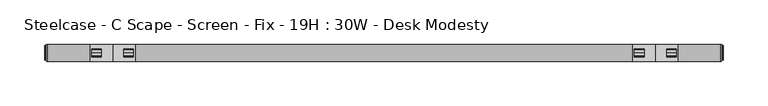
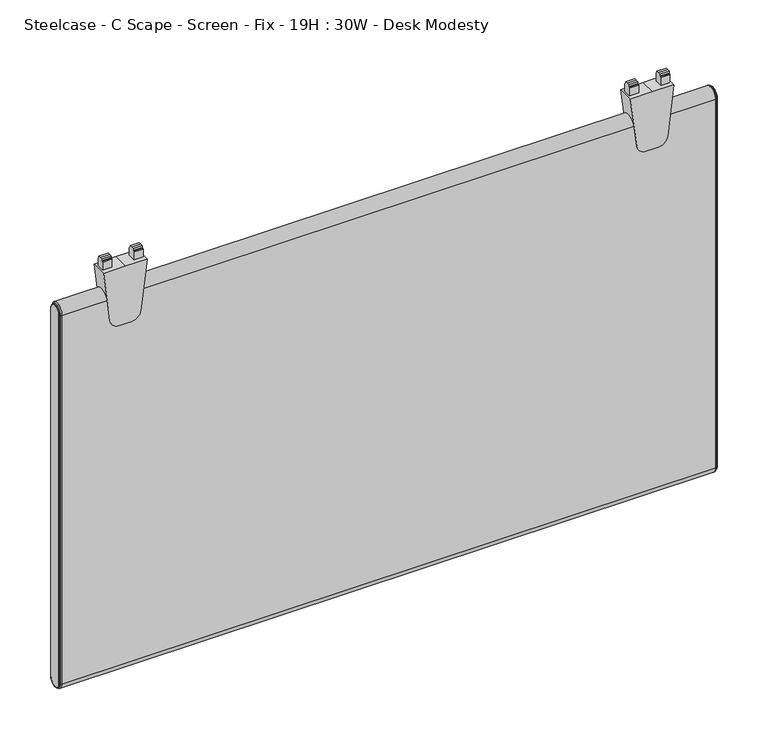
"""IFC4 building model written with IfcOpenShell, lengths in millimetres: furniture geometry, Steelcase - C Scape - Screen - Fix - 19H : 30W - Desk Modesty."""

from ifc_helpers import new_model, si_unit, point, frame, frame_2d, origin, place, context, project, spatial, polyline, circle_curve, ellipse_curve, trimmed, segment, composite_curve, outline, extrude, source, transform, mapped, element, save
from ifc_brep_helpers import plane_surface, cylinder_surface, revolved_surface, advanced_brep


def steelcase_c_scape_screen_fix_19h_30w_desk_modesty_d0b2c590(model_context):
    return source(origin(), model_context, "Body", "SolidModel", [
        extrude(outline(composite_curve([segment(polyline([(703.414888, 101.4730434), (703.414888, 76.2001674), (703.414888, 50.9272915), (643.0897579, 58.3341853)]), True, "CONTINUOUS"), segment(trimmed(circle_curve(frame_2d((644.4116282, 69.1001018)), 10.8467645), [point((643.0897579, 58.3341853))], [point((633.5648638, 69.1001018))], False, "CARTESIAN"), True, "CONTINUOUS"), segment(polyline([(633.5648638, 69.1001018), (633.5648638, 76.2001674), (633.5648638, 83.300233)]), True, "CONTINUOUS"), segment(trimmed(circle_curve(frame_2d((644.4116282, 83.300233)), 10.8467645), [point((633.5648638, 83.300233))], [point((643.0897579, 94.0661495))], False, "CARTESIAN"), True, "CONTINUOUS"), segment(polyline([(643.0897579, 94.0661495), (703.414888, 101.4730434)]), True, "CONTINUOUS")], self_intersect=False)), frame((0.0, -9.525, 0.0), z_axis=(0.0, 1.0, 0.0), x_axis=(0.0, 0.0, 1.0)), (0.0, 0.0, 1.0), 19.05),
        extrude(outline(polyline([(-4.5465975, 703.414888), (-4.5465975, 713.3208967), (-4.0139265, 714.2073252), (-2.9972008, 714.2073252), (-2.9972008, 716.4425812), (0.0, 716.534), (2.9972008, 716.4425812), (2.9972008, 714.2073252), (4.0139265, 714.2073252), (4.5465975, 713.3208967), (4.5465975, 703.414888), (0.0, 703.414888), (-4.5465975, 703.414888)])), frame((88.9267162, 0.0, 0.0), z_axis=(1.0, 0.0, 0.0), x_axis=(0.0, 1.0, 0.0)), (0.0, 0.0, 1.0), 10.7813187),
        extrude(outline(polyline([(-4.5465975, 703.414888), (-4.5465975, 713.3208967), (-4.0139265, 714.2073252), (-2.9972008, 714.2073252), (-2.9972008, 716.4425812), (0.0, 716.534), (2.9972008, 716.4425812), (2.9972008, 714.2073252), (4.0139265, 714.2073252), (4.5465975, 713.3208967), (4.5465975, 703.414888), (0.0, 703.414888), (-4.5465975, 703.414888)])), frame((52.6923, 0.0, 0.0), z_axis=(1.0, 0.0, 0.0), x_axis=(0.0, 1.0, 0.0)), (0.0, 0.0, 1.0), 10.7813187),
        extrude(outline(composite_curve([segment(polyline([(703.414888, 710.3107132), (703.414888, 685.0378372), (703.414888, 659.7649612), (643.0897579, 667.1718551)]), True, "CONTINUOUS"), segment(trimmed(circle_curve(frame_2d((644.4116282, 677.9377716)), 10.8467645), [point((643.0897579, 667.1718551))], [point((633.5648638, 677.9377716))], False, "CARTESIAN"), True, "CONTINUOUS"), segment(polyline([(633.5648638, 677.9377716), (633.5648638, 685.0378372), (633.5648638, 692.1379028)]), True, "CONTINUOUS"), segment(trimmed(circle_curve(frame_2d((644.4116282, 692.1379028)), 10.8467645), [point((633.5648638, 692.1379028))], [point((643.0897579, 702.9038193))], False, "CARTESIAN"), True, "CONTINUOUS"), segment(polyline([(643.0897579, 702.9038193), (703.414888, 710.3107132)]), True, "CONTINUOUS")], self_intersect=False)), frame((0.0, -9.525, 0.0), z_axis=(0.0, 1.0, 0.0), x_axis=(0.0, 0.0, 1.0)), (0.0, 0.0, 1.0), 19.05),
        extrude(outline(polyline([(-4.5465975, 703.414888), (-4.5465975, 713.3208967), (-4.0139265, 714.2073252), (-2.9972008, 714.2073252), (-2.9972008, 716.4425812), (0.0, 716.534), (2.9972008, 716.4425812), (2.9972008, 714.2073252), (4.0139265, 714.2073252), (4.5465975, 713.3208967), (4.5465975, 703.414888), (0.0, 703.414888), (-4.5465975, 703.414888)])), frame((697.764386, 0.0, 0.0), z_axis=(1.0, 0.0, 0.0), x_axis=(0.0, 1.0, 0.0)), (0.0, 0.0, 1.0), 10.7813187),
        extrude(outline(polyline([(-4.5465975, 703.414888), (-4.5465975, 713.3208967), (-4.0139265, 714.2073252), (-2.9972008, 714.2073252), (-2.9972008, 716.4425812), (0.0, 716.534), (2.9972008, 716.4425812), (2.9972008, 714.2073252), (4.0139265, 714.2073252), (4.5465975, 713.3208967), (4.5465975, 703.414888), (0.0, 703.414888), (-4.5465975, 703.414888)])), frame((661.5299698, 0.0, 0.0), z_axis=(1.0, 0.0, 0.0), x_axis=(0.0, 1.0, 0.0)), (0.0, 0.0, 1.0), 10.7813187),
        advanced_brep(
        [(758.4486613, -9.525, 668.909), (758.4486613, 9.525, 668.909), (758.4486613, 9.525, 218.059), (758.4486613, -9.525, 218.059), (761.2426613, 7.4929583, 668.909), (761.2426613, -7.4929583, 668.909), (761.2426613, -7.4929583, 218.059), (761.2426613, 7.4929583, 218.059), (760.7346545, -8.0009651, 668.909), (760.7346545, 8.0009651, 668.909), (759.4646613, 8.0009651, 668.909), (759.4646613, -8.0009651, 668.909), (759.4646613, -8.8204932, 668.909), (759.4646613, 8.8204932, 668.909), (759.4646613, -8.0009651, 218.059), (760.7346545, -8.0009651, 218.059), (759.4646613, -8.8204932, 218.059), (759.4646613, 8.0009651, 218.059), (760.7346545, 8.0009651, 218.059), (759.4646613, 8.8204932, 218.059)],
        [
            (0, 1, circle_curve(frame((758.4486613, 0.0, 668.909), z_axis=(-1.0, 0.0, 0.0), x_axis=(0.0, 1.0, 0.0)), 9.525)),
            (1, 2),
            (2, 3, circle_curve(frame((758.4486613, 0.0, 218.059), z_axis=(-1.0, 0.0, 0.0), x_axis=(0.0, -1.0, 0.0)), 9.525)),
            (3, 0),
            (4, 5, circle_curve(frame((761.2426613, 0.0, 668.909), z_axis=(1.0, 0.0, 0.0), x_axis=(0.0, 1.0, 0.0)), 7.4929583)),
            (5, 6),
            (6, 7, circle_curve(frame((761.2426613, 0.0, 218.059), z_axis=(1.0, 0.0, 0.0), x_axis=(0.0, -1.0, 0.0)), 7.4929583)),
            (7, 4),
            (8, 9, circle_curve(frame((760.7346545, 0.0, 668.909), z_axis=(-1.0, 0.0, 0.0), x_axis=(0.0, 1.0, 0.0)), 8.0009651)),
            (9, 10),
            (10, 11, circle_curve(frame((759.4646613, 0.0, 668.909), z_axis=(1.0, 0.0, 0.0), x_axis=(0.0, 1.0, 0.0)), 8.0009651)),
            (11, 8),
            (8, 5, circle_curve(frame((760.7346545, -7.4929583, 668.909), z_axis=(0.0, 0.0, 1.0), x_axis=(0.0, -1.0, 0.0)), 0.5080068)),
            (4, 9, circle_curve(frame((760.7346545, 7.4929583, 668.909), z_axis=(0.0, 0.0, 1.0), x_axis=(0.0, 1.0, 0.0)), 0.5080068)),
            (12, 13, circle_curve(frame((759.4646613, 0.0, 668.909), z_axis=(-1.0, 0.0, 0.0), x_axis=(0.0, 1.0, 0.0)), 8.8204932)),
            (13, 1, circle_curve(frame((758.3806211, 8.3420139, 668.909), z_axis=(0.0, 0.0, 1.0), x_axis=(0.0, 1.0, 0.0)), 1.1849411)),
            (0, 12, circle_curve(frame((758.3806211, -8.3420139, 668.909), z_axis=(0.0, 0.0, 1.0), x_axis=(0.0, -1.0, 0.0)), 1.1849411)),
            (11, 14),
            (14, 15),
            (15, 8),
            (15, 6, circle_curve(frame((760.7346545, -7.4929583, 218.059), z_axis=(0.0, 0.0, 1.0), x_axis=(0.0, -1.0, 0.0)), 0.5080068)),
            (3, 16, circle_curve(frame((758.3806211, -8.3420139, 218.059), z_axis=(0.0, 0.0, 1.0), x_axis=(0.0, -1.0, 0.0)), 1.1849411)),
            (16, 12),
            (14, 17, circle_curve(frame((759.4646613, 0.0, 218.059), z_axis=(1.0, 0.0, 0.0), x_axis=(0.0, -1.0, 0.0)), 8.0009651)),
            (17, 18),
            (18, 15, circle_curve(frame((760.7346545, 0.0, 218.059), z_axis=(-1.0, 0.0, 0.0), x_axis=(0.0, -1.0, 0.0)), 8.0009651)),
            (18, 7, circle_curve(frame((760.7346545, 7.4929583, 218.059), z_axis=(0.0, 0.0, -1.0), x_axis=(0.0, 1.0, 0.0)), 0.5080068)),
            (2, 19, circle_curve(frame((758.3806211, 8.3420139, 218.059), z_axis=(0.0, 0.0, -1.0), x_axis=(0.0, 1.0, 0.0)), 1.1849411)),
            (19, 16, circle_curve(frame((759.4646613, 0.0, 218.059), z_axis=(-1.0, 0.0, 0.0), x_axis=(0.0, -1.0, 0.0)), 8.8204932)),
            (9, 18),
            (17, 10),
            (13, 19),
        ],
        [
            plane_surface(frame((758.4486613, -6.3509705, 668.909), z_axis=(-1.0, 0.0, 0.0), x_axis=(0.0, 0.0, 1.0))),
            plane_surface(frame((761.2426613, -6.3509705, 668.909), z_axis=(1.0, 0.0, 0.0), x_axis=(0.0, 0.0, -1.0))),
            cylinder_surface(frame((758.4486613, 0.0, 668.909), z_axis=(1.0, 0.0, 0.0), x_axis=(0.0, 1.0, 0.0)), 8.0009651),
            revolved_surface(trimmed(ellipse_curve(frame((760.7346545, 7.4929583, 668.909), z_axis=(0.0, 0.0, -1.0), x_axis=(0.0, 1.0, 0.0)), 0.5080068, 0.5080068), [point((760.7346545, 8.0009651, 668.909))], [point((761.2426613, 7.4929583, 668.909))], True, "CARTESIAN"), (758.4486613, 0.0, 668.909), (1.0, 0.0, 0.0)),
            revolved_surface(trimmed(ellipse_curve(frame((758.3806211, 8.3420139, 668.909), z_axis=(0.0, 0.0, -1.0), x_axis=(0.0, 1.0, 0.0)), 1.1849411, 1.1849411), [point((758.4486613, 9.525, 668.909))], [point((759.4646613, 8.8204932, 668.909))], True, "CARTESIAN"), (758.4486613, 0.0, 668.909), (1.0, 0.0, 0.0)),
            plane_surface(frame((759.4646613, -8.0009651, 668.909), z_axis=(0.0, -1.0, 0.0), x_axis=(0.0, 0.0, -1.0))),
            cylinder_surface(frame((760.7346545, -7.4929583, 668.909), z_axis=(0.0, 0.0, 1.0), x_axis=(0.0, -1.0, 0.0)), 0.5080068),
            cylinder_surface(frame((758.3806211, -8.3420139, 668.909), z_axis=(0.0, 0.0, 1.0), x_axis=(0.0, -1.0, 0.0)), 1.1849411),
            cylinder_surface(frame((758.4486613, 0.0, 218.059), z_axis=(1.0, 0.0, 0.0), x_axis=(0.0, -1.0, 0.0)), 8.0009651),
            revolved_surface(trimmed(ellipse_curve(frame((760.7346545, -7.4929583, 218.059), z_axis=(0.0, 0.0, 1.0), x_axis=(0.0, -1.0, 0.0)), 0.5080068, 0.5080068), [point((760.7346545, -8.0009651, 218.059))], [point((761.2426613, -7.4929583, 218.059))], True, "CARTESIAN"), (758.4486613, 0.0, 218.059), (1.0, 0.0, 0.0)),
            revolved_surface(trimmed(ellipse_curve(frame((758.3806211, -8.3420139, 218.059), z_axis=(0.0, 0.0, 1.0), x_axis=(0.0, -1.0, 0.0)), 1.1849411, 1.1849411), [point((758.4486613, -9.525, 218.059))], [point((759.4646613, -8.8204932, 218.059))], True, "CARTESIAN"), (758.4486613, 0.0, 218.059), (1.0, 0.0, 0.0)),
            plane_surface(frame((759.4646613, 8.0009651, 218.059), z_axis=(0.0, 1.0, 0.0), x_axis=(0.0, 0.0, 1.0))),
            cylinder_surface(frame((760.7346545, 7.4929583, 218.059), z_axis=(0.0, 0.0, -1.0), x_axis=(0.0, 1.0, 0.0)), 0.5080068),
            cylinder_surface(frame((758.3806211, 8.3420139, 218.059), z_axis=(0.0, 0.0, -1.0), x_axis=(0.0, 1.0, 0.0)), 1.1849411),
            plane_surface(frame((759.4646613, 8.8204932, 218.059), z_axis=(1.0, 0.0, 0.0), x_axis=(0.0, 0.0, 1.0))),
        ],
        [
            (0, [[1, 2, 3, 4]]),
            (1, [[5, 6, 7, 8]]),
            (2, [[9, 10, 11, 12]]),
            (3, [[-9, 13, -5, 14]]),
            (4, [[15, 16, -1, 17]]),
            (5, [[-12, 18, 19, 20]]),
            (6, [[-13, -20, 21, -6]]),
            (7, [[-17, -4, 22, 23]]),
            (8, [[-19, 24, 25, 26]]),
            (9, [[-21, -26, 27, -7]]),
            (10, [[-22, -3, 28, 29]]),
            (11, [[-10, 30, -25, 31]]),
            (12, [[-14, -8, -27, -30]]),
            (13, [[-16, 32, -28, -2]]),
            (14, [[-15, -23, -29, -32], [-11, -31, -24, -18]]),
        ],
    ),
        advanced_brep(
        [(2.7940155, 9.525, 668.909), (2.7940155, -9.525, 668.909), (2.7940155, -9.525, 218.059), (2.7940155, 9.525, 218.059), (0.0, -7.4929583, 668.909), (0.0, 7.4929583, 668.909), (0.0, 7.4929583, 218.059), (0.0, -7.4929583, 218.059), (1.778, 8.8204932, 668.909), (1.778, -8.8204932, 668.909), (0.5080068, -8.0009651, 668.909), (0.5080068, 8.0009651, 668.909), (1.778, -8.0009651, 668.909), (1.778, 8.0009651, 668.909), (1.778, -8.8204932, 218.059), (0.5080068, -8.0009651, 218.059), (1.778, -8.0009651, 218.059), (1.778, 8.8204932, 218.059), (0.5080068, 8.0009651, 218.059), (1.778, 8.0009651, 218.059)],
        [
            (0, 1, circle_curve(frame((2.7940155, 0.0, 668.909), z_axis=(1.0, 0.0, 0.0), x_axis=(0.0, 1.0, 0.0)), 9.525)),
            (1, 2),
            (2, 3, circle_curve(frame((2.7940155, 0.0, 218.059), z_axis=(1.0, 0.0, 0.0), x_axis=(0.0, -1.0, 0.0)), 9.525)),
            (3, 0),
            (4, 5, circle_curve(frame((0.0, 0.0, 668.909), z_axis=(-1.0, 0.0, 0.0), x_axis=(0.0, 1.0, 0.0)), 7.4929583)),
            (5, 6),
            (6, 7, circle_curve(frame((0.0, 0.0, 218.059), z_axis=(-1.0, 0.0, 0.0), x_axis=(0.0, -1.0, 0.0)), 7.4929583)),
            (7, 4),
            (0, 8, circle_curve(frame((2.8620402, 8.3420139, 668.909), z_axis=(0.0, 0.0, 1.0), x_axis=(0.0, -1.0, 0.0)), 1.1849411)),
            (8, 9, circle_curve(frame((1.778, 0.0, 668.909), z_axis=(1.0, 0.0, 0.0), x_axis=(0.0, 1.0, 0.0)), 8.8204932)),
            (9, 1, circle_curve(frame((2.8620402, -8.3420139, 668.909), z_axis=(0.0, 0.0, 1.0), x_axis=(0.0, 1.0, 0.0)), 1.1849411)),
            (10, 11, circle_curve(frame((0.5080068, 0.0, 668.909), z_axis=(-1.0, 0.0, 0.0), x_axis=(0.0, 1.0, 0.0)), 8.0009651)),
            (11, 5, circle_curve(frame((0.5080068, 7.4929583, 668.909), z_axis=(0.0, 0.0, 1.0), x_axis=(0.0, -1.0, 0.0)), 0.5080068)),
            (4, 10, circle_curve(frame((0.5080068, -7.4929583, 668.909), z_axis=(0.0, 0.0, 1.0), x_axis=(0.0, 1.0, 0.0)), 0.5080068)),
            (10, 12),
            (12, 13, circle_curve(frame((1.778, 0.0, 668.909), z_axis=(-1.0, 0.0, 0.0), x_axis=(0.0, 1.0, 0.0)), 8.0009651)),
            (13, 11),
            (9, 14),
            (14, 2, circle_curve(frame((2.8620402, -8.3420139, 218.059), z_axis=(0.0, 0.0, 1.0), x_axis=(0.0, 1.0, 0.0)), 1.1849411)),
            (7, 15, circle_curve(frame((0.5080068, -7.4929583, 218.059), z_axis=(0.0, 0.0, 1.0), x_axis=(0.0, 1.0, 0.0)), 0.5080068)),
            (15, 10),
            (15, 16),
            (16, 12),
            (14, 17, circle_curve(frame((1.778, 0.0, 218.059), z_axis=(1.0, 0.0, 0.0), x_axis=(0.0, -1.0, 0.0)), 8.8204932)),
            (17, 3, circle_curve(frame((2.8620402, 8.3420139, 218.059), z_axis=(0.0, 0.0, -1.0), x_axis=(0.0, -1.0, 0.0)), 1.1849411)),
            (6, 18, circle_curve(frame((0.5080068, 7.4929583, 218.059), z_axis=(0.0, 0.0, -1.0), x_axis=(0.0, -1.0, 0.0)), 0.5080068)),
            (18, 15, circle_curve(frame((0.5080068, 0.0, 218.059), z_axis=(-1.0, 0.0, 0.0), x_axis=(0.0, -1.0, 0.0)), 8.0009651)),
            (18, 19),
            (19, 16, circle_curve(frame((1.778, 0.0, 218.059), z_axis=(-1.0, 0.0, 0.0), x_axis=(0.0, -1.0, 0.0)), 8.0009651)),
            (8, 17),
            (19, 13),
            (11, 18),
        ],
        [
            plane_surface(frame((2.7940155, -6.3509705, 668.909), z_axis=(1.0, 0.0, 0.0), x_axis=(0.0, 0.0, -1.0))),
            plane_surface(frame((0.0, -6.3509705, 668.909), z_axis=(-1.0, 0.0, 0.0), x_axis=(0.0, 0.0, 1.0))),
            revolved_surface(trimmed(ellipse_curve(frame((2.8620402, 8.3420139, 668.909), z_axis=(0.0, 0.0, -1.0), x_axis=(0.0, -1.0, 0.0)), 1.1849411, 1.1849411), [point((1.778, 8.8204932, 668.909))], [point((2.794, 9.525, 668.909))], True, "CARTESIAN"), (2.794, 0.0, 668.909), (1.0, 0.0, 0.0)),
            revolved_surface(trimmed(ellipse_curve(frame((0.5080068, 7.4929583, 668.909), z_axis=(0.0, 0.0, -1.0), x_axis=(0.0, -1.0, 0.0)), 0.5080068, 0.5080068), [point((0.0, 7.4929583, 668.909))], [point((0.5080068, 8.0009651, 668.909))], True, "CARTESIAN"), (2.794, 0.0, 668.909), (1.0, 0.0, 0.0)),
            cylinder_surface(frame((2.794, 0.0, 668.909), z_axis=(1.0, 0.0, 0.0), x_axis=(0.0, 1.0, 0.0)), 8.0009651),
            cylinder_surface(frame((2.8620402, -8.3420139, 668.909), z_axis=(0.0, 0.0, 1.0), x_axis=(0.0, 1.0, 0.0)), 1.1849411),
            cylinder_surface(frame((0.5080068, -7.4929583, 668.909), z_axis=(0.0, 0.0, 1.0), x_axis=(0.0, 1.0, 0.0)), 0.5080068),
            plane_surface(frame((0.5080068, -8.0009651, 668.909), z_axis=(0.0, -1.0, 0.0), x_axis=(0.0, 0.0, -1.0))),
            revolved_surface(trimmed(ellipse_curve(frame((2.8620402, -8.3420139, 218.059), z_axis=(0.0, 0.0, 1.0), x_axis=(0.0, 1.0, 0.0)), 1.1849411, 1.1849411), [point((1.778, -8.8204932, 218.059))], [point((2.794, -9.525, 218.059))], True, "CARTESIAN"), (2.794, 0.0, 218.059), (1.0, 0.0, 0.0)),
            revolved_surface(trimmed(ellipse_curve(frame((0.5080068, -7.4929583, 218.059), z_axis=(0.0, 0.0, 1.0), x_axis=(0.0, 1.0, 0.0)), 0.5080068, 0.5080068), [point((0.0, -7.4929583, 218.059))], [point((0.5080068, -8.0009651, 218.059))], True, "CARTESIAN"), (2.794, 0.0, 218.059), (1.0, 0.0, 0.0)),
            cylinder_surface(frame((2.794, 0.0, 218.059), z_axis=(1.0, 0.0, 0.0), x_axis=(0.0, -1.0, 0.0)), 8.0009651),
            plane_surface(frame((1.778, 8.0009651, 218.059), z_axis=(-1.0, 0.0, 0.0), x_axis=(0.0, 0.0, 1.0))),
            cylinder_surface(frame((2.8620402, 8.3420139, 218.059), z_axis=(0.0, 0.0, -1.0), x_axis=(0.0, -1.0, 0.0)), 1.1849411),
            cylinder_surface(frame((0.5080068, 7.4929583, 218.059), z_axis=(0.0, 0.0, -1.0), x_axis=(0.0, -1.0, 0.0)), 0.5080068),
            plane_surface(frame((0.5080068, 8.0009651, 218.059), z_axis=(0.0, 1.0, 0.0), x_axis=(0.0, 0.0, 1.0))),
        ],
        [
            (0, [[1, 2, 3, 4]]),
            (1, [[5, 6, 7, 8]]),
            (2, [[-1, 9, 10, 11]]),
            (3, [[12, 13, -5, 14]]),
            (4, [[-12, 15, 16, 17]]),
            (5, [[-11, 18, 19, -2]]),
            (6, [[-14, -8, 20, 21]]),
            (7, [[-15, -21, 22, 23]]),
            (8, [[-19, 24, 25, -3]]),
            (9, [[-20, -7, 26, 27]]),
            (10, [[-22, -27, 28, 29]]),
            (11, [[-10, 30, -24, -18], [-16, -23, -29, 31]]),
            (12, [[-9, -4, -25, -30]]),
            (13, [[-13, 32, -26, -6]]),
            (14, [[-17, -31, -28, -32]]),
        ],
    ),
        extrude(outline(composite_curve([segment(trimmed(circle_curve(frame_2d((0.0, 668.909)), 9.525), [point((-9.525, 668.909))], [point((9.525, 668.909))], False, "CARTESIAN"), True, "CONTINUOUS"), segment(polyline([(9.525, 668.909), (9.525, 218.059)]), True, "CONTINUOUS"), segment(trimmed(circle_curve(frame_2d((0.0, 218.059)), 9.525), [point((9.525, 218.059))], [point((-9.525, 218.059))], False, "CARTESIAN"), True, "CONTINUOUS"), segment(polyline([(-9.525, 218.059), (-9.525, 668.909)]), True, "CONTINUOUS")], self_intersect=False)), frame((2.794, 0.0, 0.0), z_axis=(1.0, 0.0, 0.0), x_axis=(0.0, 1.0, 0.0)), (0.0, 0.0, 1.0), 755.6546613),
    ])


if __name__ == "__main__":
    model = new_model("IFC4")
    model_context = context("Model", 3, world=origin())
    ifc_project = project(units=[si_unit("LENGTHUNIT", "METRE", prefix="MILLI")], contexts=[model_context])
    site = spatial("IfcSite", under=ifc_project)
    building = spatial("IfcBuilding", under=site)
    placement = place(None, origin())
    steelcase_c_scape_screen_fix_19h_30w_desk_modesty_shape = steelcase_c_scape_screen_fix_19h_30w_desk_modesty_d0b2c590(model_context)
    element("IfcFurniture", 1, ObjectType="Steelcase - C Scape - Screen - Fix - 19H : 30W - Desk Modesty", at=placement, inside=building, context=model_context, shape_type="MappedRepresentation", body=[
        mapped(steelcase_c_scape_screen_fix_19h_30w_desk_modesty_shape, transform((0.0, 0.0, 0.0), x_axis=(1.0, 0.0, 0.0), y_axis=(0.0, 1.0, 0.0), z_axis=(0.0, 0.0, 1.0))),
    ])
    save(model, "model.ifc")
